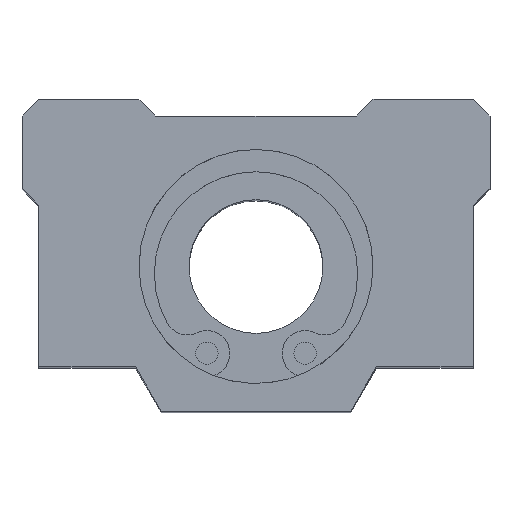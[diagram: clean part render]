
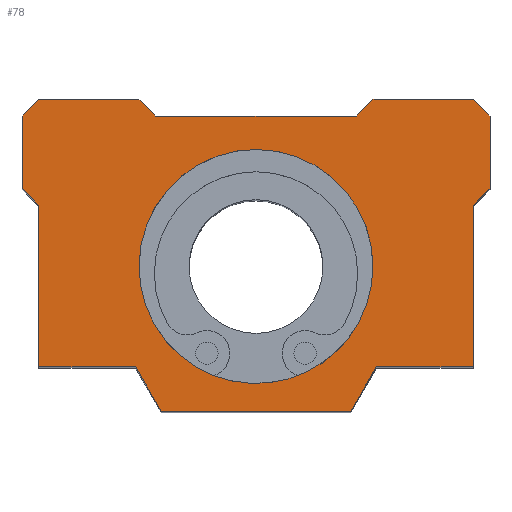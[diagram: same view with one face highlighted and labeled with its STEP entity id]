
A CAD part, top view. The second image highlights one B-rep face of the part: STEP entity #78.
In plain terms, the highlighted planar face has unit normal (0, 0, 1).
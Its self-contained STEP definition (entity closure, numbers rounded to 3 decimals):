
#78=ADVANCED_FACE('',(#143,#144),#145,.T.);
#143=FACE_OUTER_BOUND('',#296,.T.);
#144=FACE_BOUND('',#297,.T.);
#145=PLANE('',#298);
#296=EDGE_LOOP('',(#464,#465,#466,#467,#468,#469,#470,#471,#472,#473,#474,#475,#476,#477,#478,#479,#480,#481));
#297=EDGE_LOOP('',(#482));
#298=AXIS2_PLACEMENT_3D('',#483,#484,#485);
#464=ORIENTED_EDGE('',*,*,#912,.T.);
#465=ORIENTED_EDGE('',*,*,#913,.T.);
#466=ORIENTED_EDGE('',*,*,#914,.T.);
#467=ORIENTED_EDGE('',*,*,#915,.T.);
#468=ORIENTED_EDGE('',*,*,#916,.T.);
#469=ORIENTED_EDGE('',*,*,#917,.T.);
#470=ORIENTED_EDGE('',*,*,#918,.T.);
#471=ORIENTED_EDGE('',*,*,#919,.T.);
#472=ORIENTED_EDGE('',*,*,#920,.T.);
#473=ORIENTED_EDGE('',*,*,#921,.T.);
#474=ORIENTED_EDGE('',*,*,#922,.T.);
#475=ORIENTED_EDGE('',*,*,#923,.T.);
#476=ORIENTED_EDGE('',*,*,#924,.T.);
#477=ORIENTED_EDGE('',*,*,#925,.T.);
#478=ORIENTED_EDGE('',*,*,#926,.T.);
#479=ORIENTED_EDGE('',*,*,#927,.T.);
#480=ORIENTED_EDGE('',*,*,#928,.T.);
#481=ORIENTED_EDGE('',*,*,#929,.T.);
#482=ORIENTED_EDGE('',*,*,#930,.T.);
#483=CARTESIAN_POINT('',(-15.0,19.5,35.0));
#484=DIRECTION('',(0.0,-0.0,1.0));
#485=DIRECTION('',(0.0,1.0,0.0));
#912=EDGE_CURVE('',#1058,#1059,#1060,.T.);
#913=EDGE_CURVE('',#1059,#1061,#1062,.T.);
#914=EDGE_CURVE('',#1061,#1063,#1064,.T.);
#915=EDGE_CURVE('',#1063,#1065,#1066,.T.);
#916=EDGE_CURVE('',#1065,#1067,#1068,.T.);
#917=EDGE_CURVE('',#1067,#1069,#1070,.T.);
#918=EDGE_CURVE('',#1069,#1071,#1072,.T.);
#919=EDGE_CURVE('',#1071,#1073,#1074,.T.);
#920=EDGE_CURVE('',#1073,#1075,#1076,.T.);
#921=EDGE_CURVE('',#1075,#1077,#1078,.T.);
#922=EDGE_CURVE('',#1077,#1079,#1080,.T.);
#923=EDGE_CURVE('',#1079,#1081,#1082,.T.);
#924=EDGE_CURVE('',#1081,#1083,#1084,.T.);
#925=EDGE_CURVE('',#1083,#1085,#1086,.T.);
#926=EDGE_CURVE('',#1085,#1087,#1088,.T.);
#927=EDGE_CURVE('',#1087,#1089,#1090,.T.);
#928=EDGE_CURVE('',#1089,#1091,#1092,.T.);
#929=EDGE_CURVE('',#1091,#1058,#1093,.T.);
#930=EDGE_CURVE('',#1094,#1094,#1095,.F.);
#1058=VERTEX_POINT('',#1302);
#1059=VERTEX_POINT('',#1303);
#1060=LINE('',#1304,#1305);
#1061=VERTEX_POINT('',#1306);
#1062=LINE('',#1307,#1308);
#1063=VERTEX_POINT('',#1309);
#1064=LINE('',#1310,#1311);
#1065=VERTEX_POINT('',#1312);
#1066=LINE('',#1313,#1314);
#1067=VERTEX_POINT('',#1315);
#1068=LINE('',#1316,#1317);
#1069=VERTEX_POINT('',#1318);
#1070=LINE('',#1319,#1320);
#1071=VERTEX_POINT('',#1321);
#1072=LINE('',#1322,#1323);
#1073=VERTEX_POINT('',#1324);
#1074=LINE('',#1325,#1326);
#1075=VERTEX_POINT('',#1327);
#1076=LINE('',#1328,#1329);
#1077=VERTEX_POINT('',#1330);
#1078=LINE('',#1331,#1332);
#1079=VERTEX_POINT('',#1333);
#1080=LINE('',#1334,#1335);
#1081=VERTEX_POINT('',#1336);
#1082=LINE('',#1337,#1338);
#1083=VERTEX_POINT('',#1339);
#1084=LINE('',#1340,#1341);
#1085=VERTEX_POINT('',#1342);
#1086=LINE('',#1343,#1344);
#1087=VERTEX_POINT('',#1345);
#1088=LINE('',#1346,#1347);
#1089=VERTEX_POINT('',#1348);
#1090=LINE('',#1349,#1350);
#1091=VERTEX_POINT('',#1351);
#1092=LINE('',#1352,#1353);
#1093=LINE('',#1354,#1355);
#1094=VERTEX_POINT('',#1356);
#1095=CIRCLE('',#1357,10.5);
#1302=CARTESIAN_POINT('',(-9.0,13.5,35.0));
#1303=CARTESIAN_POINT('',(-10.5,15.0,35.0));
#1304=CARTESIAN_POINT('',(-9.0,13.5,35.0));
#1305=VECTOR('',#1616,1.0);
#1306=CARTESIAN_POINT('',(-19.5,15.0,35.0));
#1307=CARTESIAN_POINT('',(-10.5,15.0,35.0));
#1308=VECTOR('',#1617,1.0);
#1309=CARTESIAN_POINT('',(-21.0,13.5,35.0));
#1310=CARTESIAN_POINT('',(-19.5,15.0,35.0));
#1311=VECTOR('',#1618,1.0);
#1312=CARTESIAN_POINT('',(-21.0,7.0,35.0));
#1313=CARTESIAN_POINT('',(-21.0,13.5,35.0));
#1314=VECTOR('',#1619,1.0);
#1315=CARTESIAN_POINT('',(-19.5,5.5,35.0));
#1316=CARTESIAN_POINT('',(-21.0,7.0,35.0));
#1317=VECTOR('',#1620,1.0);
#1318=CARTESIAN_POINT('',(-19.5,-9.0,35.0));
#1319=CARTESIAN_POINT('',(-19.5,5.5,35.0));
#1320=VECTOR('',#1621,1.0);
#1321=CARTESIAN_POINT('',(-10.809,-9.0,35.0));
#1322=CARTESIAN_POINT('',(-19.5,-9.0,35.0));
#1323=VECTOR('',#1622,1.0);
#1324=CARTESIAN_POINT('',(-8.5,-13.0,35.0));
#1325=CARTESIAN_POINT('',(-10.809,-9.0,35.0));
#1326=VECTOR('',#1623,1.0);
#1327=CARTESIAN_POINT('',(8.5,-13.0,35.0));
#1328=CARTESIAN_POINT('',(-8.5,-13.0,35.0));
#1329=VECTOR('',#1624,1.0);
#1330=CARTESIAN_POINT('',(10.809,-9.0,35.0));
#1331=CARTESIAN_POINT('',(8.5,-13.0,35.0));
#1332=VECTOR('',#1625,1.0);
#1333=CARTESIAN_POINT('',(19.5,-9.0,35.0));
#1334=CARTESIAN_POINT('',(10.809,-9.0,35.0));
#1335=VECTOR('',#1626,1.0);
#1336=CARTESIAN_POINT('',(19.5,5.5,35.0));
#1337=CARTESIAN_POINT('',(19.5,-9.0,35.0));
#1338=VECTOR('',#1627,1.0);
#1339=CARTESIAN_POINT('',(21.0,7.0,35.0));
#1340=CARTESIAN_POINT('',(19.5,5.5,35.0));
#1341=VECTOR('',#1628,1.0);
#1342=CARTESIAN_POINT('',(21.0,13.5,35.0));
#1343=CARTESIAN_POINT('',(21.0,7.0,35.0));
#1344=VECTOR('',#1629,1.0);
#1345=CARTESIAN_POINT('',(19.5,15.0,35.0));
#1346=CARTESIAN_POINT('',(21.0,13.5,35.0));
#1347=VECTOR('',#1630,1.0);
#1348=CARTESIAN_POINT('',(10.5,15.0,35.0));
#1349=CARTESIAN_POINT('',(19.5,15.0,35.0));
#1350=VECTOR('',#1631,1.0);
#1351=CARTESIAN_POINT('',(9.0,13.5,35.0));
#1352=CARTESIAN_POINT('',(10.5,15.0,35.0));
#1353=VECTOR('',#1632,1.0);
#1354=CARTESIAN_POINT('',(9.0,13.5,35.0));
#1355=VECTOR('',#1633,1.0);
#1356=CARTESIAN_POINT('',(10.5,0.,35.0));
#1357=AXIS2_PLACEMENT_3D('',#1634,#1635,#1636);
#1616=DIRECTION('',(-0.707,0.707,0.0));
#1617=DIRECTION('',(-1.0,0.0,0.0));
#1618=DIRECTION('',(-0.707,-0.707,0.0));
#1619=DIRECTION('',(0.0,-1.0,0.0));
#1620=DIRECTION('',(0.707,-0.707,0.0));
#1621=DIRECTION('',(0.,-1.0,0.0));
#1622=DIRECTION('',(1.0,0.0,0.0));
#1623=DIRECTION('',(0.5,-0.866,0.0));
#1624=DIRECTION('',(1.0,0.0,0.0));
#1625=DIRECTION('',(0.5,0.866,0.0));
#1626=DIRECTION('',(1.0,0.0,0.0));
#1627=DIRECTION('',(0.,1.0,0.0));
#1628=DIRECTION('',(0.707,0.707,0.0));
#1629=DIRECTION('',(0.0,1.0,0.0));
#1630=DIRECTION('',(-0.707,0.707,0.0));
#1631=DIRECTION('',(-1.0,0.0,0.0));
#1632=DIRECTION('',(-0.707,-0.707,0.0));
#1633=DIRECTION('',(-1.0,0.0,0.0));
#1634=CARTESIAN_POINT('',(0.0,0.0,35.0));
#1635=DIRECTION('',(0.0,0.0,1.0));
#1636=DIRECTION('',(1.0,0.0,0.0));
